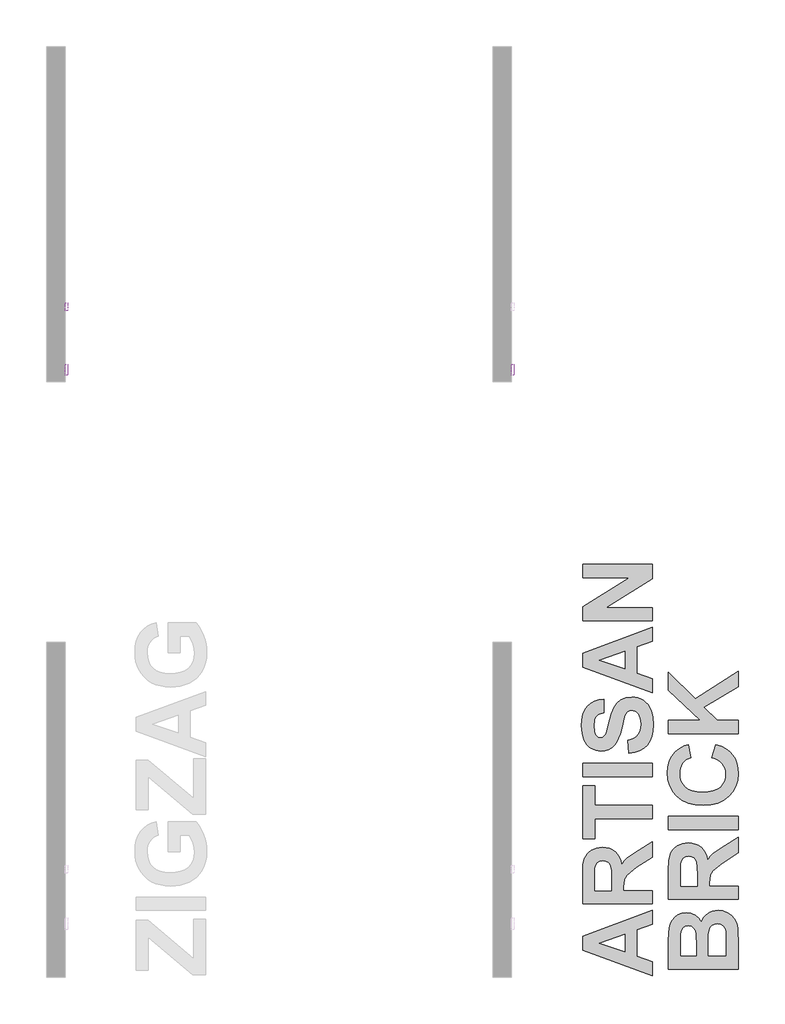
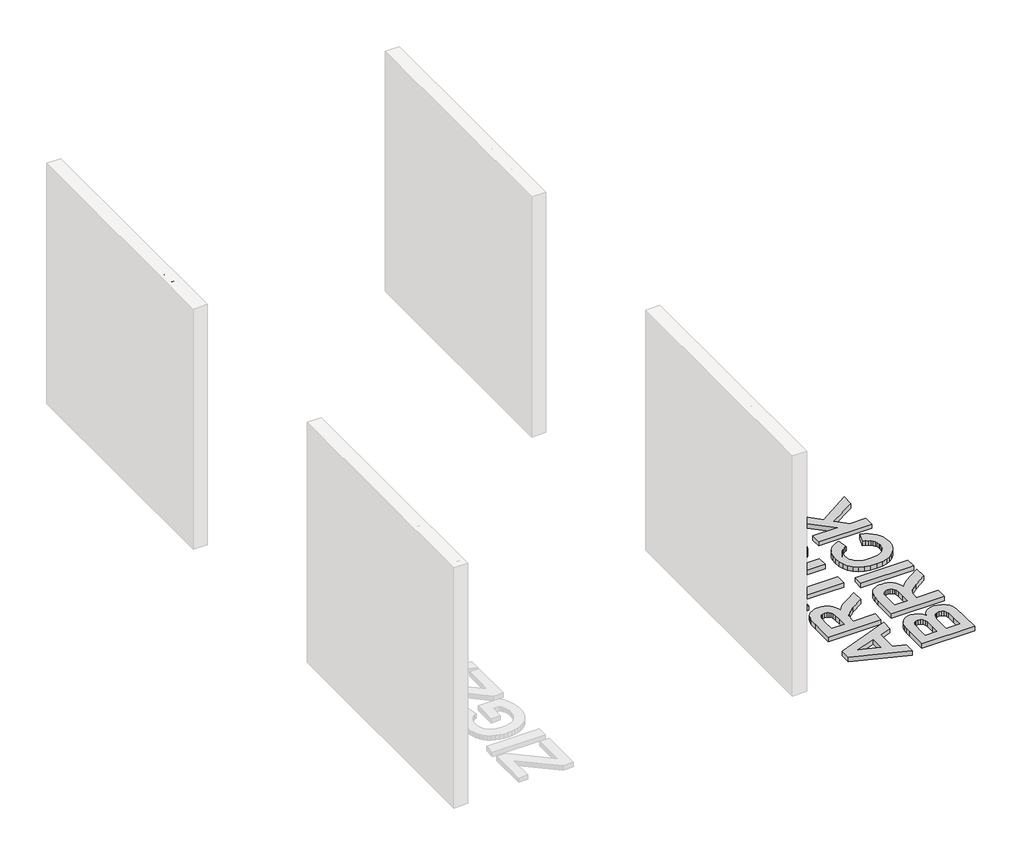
# One storey, part 3 of 9: 4 proxies.
"""IFC4 building model written with IfcOpenShell, lengths in millimetres."""

from ifc_helpers import new_model, si_unit, frame, origin, origin_with_axes, place, context, project, spatial, polyline, outline, extrude, element, save

model = new_model("IFC4")

# Units and contexts
model_context = context("Model", 3, world=origin())
ifc_project = project(units=[si_unit("LENGTHUNIT", "METRE", prefix="MILLI")], contexts=[model_context])

# Site, building, storey
site = spatial("IfcSite", under=ifc_project)
building = spatial("IfcBuilding", under=site)
storey = spatial("IfcBuildingStorey", under=building, Name="PORTOBELLO - SHOWROOM", Elevation=0.0)

# Proxies
placement = place(None, origin())
element("IfcBuildingElementProxy", 1, Name="10mm Arial", ObjectType="10mm Arial", at=placement, inside=storey, context=model_context, shape_type="SweptSolid", body=[
    extrude(outline(polyline([(-1097.7049398, 2548.8308244), (-1057.6058023, 2649.2871345), (-1046.912699, 2649.2871345), (-1006.8135615, 2548.8308244), (-1020.0818388, 2548.8308244), (-1031.5842825, 2580.2234213), (-1072.9587442, 2580.2234213), (-1084.4366625, 2548.8308244), (-1097.7049398, 2548.8308244)]), holes=[polyline([(-1068.3479566, 2592.7804601), (-1036.1705447, 2592.7804601), (-1045.2204418, 2617.4776047), (-1052.2592506, 2636.7300958), (-1058.5132446, 2619.6358457), (-1068.3479566, 2592.7804601)])]), frame((-18784.5594677, 0.0, 0.0), z_axis=(1.0, 0.0, 0.0), x_axis=(0.0, 1.0, 0.0)), (0.0, 0.0, 1.0), 20.0),
    extrude(outline(polyline([(-994.9677613, 2548.8308244), (-994.9677613, 2622.6034271), (-983.9803523, 2622.6034271), (-983.9803523, 2611.6895946), (-976.181254, 2621.7450358), (-968.3331048, 2624.173057), (-955.7270151, 2620.2980333), (-959.9208699, 2609.0408443), (-968.7500377, 2611.6160182), (-975.8501603, 2609.1389461), (-980.3751088, 2602.2718155), (-982.4107225, 2587.6055867), (-982.4107225, 2548.8308244), (-994.9677613, 2548.8308244)])), frame((-18784.5594677, 0.0, 0.0), z_axis=(1.0, 0.0, 0.0), x_axis=(0.0, 1.0, 0.0)), (0.0, 0.0, 1.0), 20.0),
    extrude(outline(polyline([(-902.3596003, 2548.8308244), (-902.3596003, 2560.6766246), (-910.6676021, 2550.6150521), (-922.1516517, 2547.2611945), (-937.7007974, 2552.1172369), (-948.6882063, 2565.667557), (-952.5877554, 2585.6435494), (-948.9947746, 2605.6318044), (-938.2280949, 2619.3905911), (-922.2007026, 2624.173057), (-910.6246825, 2620.7517544), (-902.3596003, 2611.8612729), (-902.3596003, 2649.2871345), (-889.8025616, 2649.2871345), (-889.8025616, 2548.8308244), (-902.3596003, 2548.8308244)]), holes=[polyline([(-940.0307167, 2585.6926003), (-938.614371, 2574.3342437), (-934.3653339, 2566.2561682), (-928.1910478, 2561.427717), (-920.9989548, 2559.8182333), (-913.8099274, 2561.3541406), (-907.7919911, 2565.9618626), (-903.717698, 2573.7272384), (-902.3596003, 2584.7361071), (-903.7422235, 2596.7719797), (-907.890093, 2605.1167696), (-914.0613135, 2609.9912061), (-921.5139896, 2611.6160182), (-928.779659, 2610.0555854), (-934.7332159, 2605.374287), (-938.7063415, 2597.3329998), (-940.0307167, 2585.6926003)])]), frame((-18784.5594677, 0.0, 0.0), z_axis=(1.0, 0.0, 0.0), x_axis=(0.0, 1.0, 0.0)), (0.0, 0.0, 1.0), 20.0),
    extrude(outline(polyline([(-819.3163713, 2570.8056422), (-807.0045872, 2569.2360124), (-811.4406309, 2559.9592547), (-818.5192936, 2553.0246791), (-828.0811598, 2548.7020657), (-839.966814, 2547.2611945), (-854.7004879, 2549.7474637), (-866.0373847, 2557.2062711), (-873.2662659, 2569.1532389), (-875.675893, 2585.1039891), (-873.2417404, 2601.5912339), (-865.9392828, 2613.9214121), (-854.7556702, 2621.6101458), (-840.6780525, 2624.173057), (-827.0388275, 2621.6162771), (-816.1403234, 2613.9459375), (-808.9942157, 2601.6402848), (-806.6121797, 2585.1775655), (-806.6857561, 2581.7930512), (-863.1188542, 2581.7930512), (-860.9452847, 2572.3936662), (-855.8961044, 2565.483616), (-848.6089752, 2561.234579), (-839.7215593, 2559.8182333), (-827.4097752, 2562.4424582), (-819.3163713, 2570.8056422)]), holes=[polyline([(-863.1188542, 2594.3500899), (-819.1692185, 2594.3500899), (-824.1969391, 2605.7299063), (-831.5177908, 2610.1444902), (-840.7271034, 2611.6160182), (-856.19041, 2606.9193914), (-861.0556493, 2601.4287526), (-863.1188542, 2594.3500899)])]), frame((-18784.5594677, 0.0, 0.0), z_axis=(1.0, 0.0, 0.0), x_axis=(0.0, 1.0, 0.0)), (0.0, 0.0, 1.0), 20.0),
    extrude(outline(polyline([(-798.7640305, 2570.8056422), (-786.2069917, 2572.3752721), (-780.3944562, 2563.0555949), (-767.077128, 2559.8182333), (-754.2748346, 2562.7858147), (-750.1055053, 2569.7510472), (-754.29936, 2575.3919044), (-767.2242808, 2578.9726225), (-786.1334153, 2585.1162518), (-794.3862348, 2592.2899507), (-797.1944007, 2602.4189683), (-794.9380578, 2611.7754338), (-788.7821657, 2618.9246072), (-780.7991264, 2622.6402153), (-769.9956585, 2624.173057), (-754.716293, 2621.7082476), (-745.0042083, 2615.0373208), (-740.6877262, 2603.767869), (-753.244765, 2602.1982392), (-757.9659172, 2609.1266834), (-769.0146398, 2611.6160182), (-781.0321183, 2609.237048), (-784.6373619, 2603.6942926), (-783.1413084, 2600.0399981), (-778.4569444, 2597.2686204), (-767.6412137, 2594.5953446), (-749.2103258, 2588.6847072), (-740.650938, 2581.9892549), (-737.5484665, 2571.0754224), (-741.1904983, 2559.0579438), (-751.6996606, 2550.3391406), (-767.2488063, 2547.2611945), (-779.9100783, 2548.7449853), (-789.1500477, 2553.1963574), (-795.3182025, 2560.56626), (-798.7640305, 2570.8056422)])), frame((-18784.5594677, 0.0, 0.0), z_axis=(1.0, 0.0, 0.0), x_axis=(0.0, 1.0, 0.0)), (0.0, 0.0, 1.0), 20.0),
    extrude(outline(polyline([(-18764.5594677, -710.8647591), (-18764.5594677, -723.4217979), (-18784.5594677, -723.4217979), (-18784.5594677, -710.8647591), (-18764.5594677, -710.8647591)])), frame((0.0, 0.0, 2548.8308244), z_axis=(0.0, 0.0, 1.0), x_axis=(1.0, 0.0, 0.0)), (0.0, 0.0, 1.0), 73.7726028),
    extrude(outline(polyline([(-18764.5594677, -710.8647591), (-18764.5594677, -723.4217979), (-18784.5594677, -723.4217979), (-18784.5594677, -710.8647591), (-18764.5594677, -710.8647591)])), frame((0.0, 0.0, 2636.7300958), z_axis=(0.0, 0.0, 1.0), x_axis=(1.0, 0.0, 0.0)), (0.0, 0.0, 1.0), 12.5570388),
    extrude(outline(polyline([(-644.9403056, 2558.2486035), (-657.1171996, 2549.7382666), (-670.5694179, 2547.2611945), (-681.0632518, 2548.7511166), (-688.8041021, 2553.2208829), (-693.577371, 2560.0083057), (-695.1684607, 2568.4511975), (-692.764965, 2578.3840113), (-686.4496574, 2585.5944984), (-677.6572777, 2589.7147768), (-666.7924961, 2591.6032377), (-645.013882, 2595.9197198), (-644.9403056, 2598.7156229), (-648.3983963, 2607.9862492), (-662.2798103, 2611.6160182), (-674.9840019, 2609.2002598), (-681.041792, 2600.6286093), (-693.5988308, 2602.1982392), (-688.16644, 2614.4609723), (-677.228082, 2621.646934), (-660.6611295, 2624.173057), (-645.4430777, 2621.9412396), (-636.8469017, 2616.3371705), (-632.9964035, 2607.8145709), (-632.3832668, 2596.827162), (-632.3832668, 2581.20444), (-631.7456047, 2559.3890376), (-629.2440071, 2548.8308244), (-641.8010459, 2548.8308244), (-644.9403056, 2558.2486035)]), holes=[polyline([(-644.9403056, 2583.362681), (-665.1983408, 2579.5121828), (-676.0018087, 2577.4765691), (-680.8946393, 2574.1656311), (-682.6114219, 2569.3341142), (-678.8712883, 2562.5405601), (-667.8961421, 2559.8182333), (-655.1919505, 2562.8226029), (-647.0004448, 2570.0944037), (-645.013882, 2579.8064884), (-644.9403056, 2583.362681)])]), frame((-18784.5594677, 0.0, 0.0), z_axis=(1.0, 0.0, 0.0), x_axis=(0.0, 1.0, 0.0)), (0.0, 0.0, 1.0), 20.0),
])
element("IfcBuildingElementProxy", 2, Name="10mm Arial", ObjectType="10mm Arial", at=placement, inside=storey, context=model_context, shape_type="SweptSolid", body=[
    extrude(outline(polyline([(-1097.7049398, 2548.8308244), (-1057.6058023, 2649.2871345), (-1046.912699, 2649.2871345), (-1006.8135615, 2548.8308244), (-1020.0818388, 2548.8308244), (-1031.5842825, 2580.2234213), (-1072.9587442, 2580.2234213), (-1084.4366625, 2548.8308244), (-1097.7049398, 2548.8308244)]), holes=[polyline([(-1068.3479566, 2592.7804601), (-1036.1705447, 2592.7804601), (-1045.2204418, 2617.4776047), (-1052.2592506, 2636.7300958), (-1058.5132446, 2619.6358457), (-1068.3479566, 2592.7804601)])]), frame((-22384.5594677, 0.0, 0.0), z_axis=(1.0, 0.0, 0.0), x_axis=(0.0, 1.0, 0.0)), (0.0, 0.0, 1.0), 20.0),
    extrude(outline(polyline([(-994.9677613, 2548.8308244), (-994.9677613, 2622.6034271), (-983.9803523, 2622.6034271), (-983.9803523, 2611.6895946), (-976.181254, 2621.7450358), (-968.3331048, 2624.173057), (-955.7270151, 2620.2980333), (-959.9208699, 2609.0408443), (-968.7500377, 2611.6160182), (-975.8501603, 2609.1389461), (-980.3751088, 2602.2718155), (-982.4107225, 2587.6055867), (-982.4107225, 2548.8308244), (-994.9677613, 2548.8308244)])), frame((-22384.5594677, 0.0, 0.0), z_axis=(1.0, 0.0, 0.0), x_axis=(0.0, 1.0, 0.0)), (0.0, 0.0, 1.0), 20.0),
    extrude(outline(polyline([(-902.3596003, 2548.8308244), (-902.3596003, 2560.6766246), (-910.6676021, 2550.6150521), (-922.1516517, 2547.2611945), (-937.7007974, 2552.1172369), (-948.6882063, 2565.667557), (-952.5877554, 2585.6435494), (-948.9947746, 2605.6318044), (-938.2280949, 2619.3905911), (-922.2007026, 2624.173057), (-910.6246825, 2620.7517544), (-902.3596003, 2611.8612729), (-902.3596003, 2649.2871345), (-889.8025616, 2649.2871345), (-889.8025616, 2548.8308244), (-902.3596003, 2548.8308244)]), holes=[polyline([(-940.0307167, 2585.6926003), (-938.614371, 2574.3342437), (-934.3653339, 2566.2561682), (-928.1910478, 2561.427717), (-920.9989548, 2559.8182333), (-913.8099274, 2561.3541406), (-907.7919911, 2565.9618626), (-903.717698, 2573.7272384), (-902.3596003, 2584.7361071), (-903.7422235, 2596.7719797), (-907.890093, 2605.1167696), (-914.0613135, 2609.9912061), (-921.5139896, 2611.6160182), (-928.779659, 2610.0555854), (-934.7332159, 2605.374287), (-938.7063415, 2597.3329998), (-940.0307167, 2585.6926003)])]), frame((-22384.5594677, 0.0, 0.0), z_axis=(1.0, 0.0, 0.0), x_axis=(0.0, 1.0, 0.0)), (0.0, 0.0, 1.0), 20.0),
    extrude(outline(polyline([(-819.3163713, 2570.8056422), (-807.0045872, 2569.2360124), (-811.4406309, 2559.9592547), (-818.5192936, 2553.0246791), (-828.0811598, 2548.7020657), (-839.966814, 2547.2611945), (-854.7004879, 2549.7474637), (-866.0373847, 2557.2062711), (-873.2662659, 2569.1532389), (-875.675893, 2585.1039891), (-873.2417404, 2601.5912339), (-865.9392828, 2613.9214121), (-854.7556702, 2621.6101458), (-840.6780525, 2624.173057), (-827.0388275, 2621.6162771), (-816.1403234, 2613.9459375), (-808.9942157, 2601.6402848), (-806.6121797, 2585.1775655), (-806.6857561, 2581.7930512), (-863.1188542, 2581.7930512), (-860.9452847, 2572.3936662), (-855.8961044, 2565.483616), (-848.6089752, 2561.234579), (-839.7215593, 2559.8182333), (-827.4097752, 2562.4424582), (-819.3163713, 2570.8056422)]), holes=[polyline([(-863.1188542, 2594.3500899), (-819.1692185, 2594.3500899), (-824.1969391, 2605.7299063), (-831.5177908, 2610.1444902), (-840.7271034, 2611.6160182), (-856.19041, 2606.9193914), (-861.0556493, 2601.4287526), (-863.1188542, 2594.3500899)])]), frame((-22384.5594677, 0.0, 0.0), z_axis=(1.0, 0.0, 0.0), x_axis=(0.0, 1.0, 0.0)), (0.0, 0.0, 1.0), 20.0),
    extrude(outline(polyline([(-798.7640305, 2570.8056422), (-786.2069917, 2572.3752721), (-780.3944562, 2563.0555949), (-767.077128, 2559.8182333), (-754.2748346, 2562.7858147), (-750.1055053, 2569.7510472), (-754.29936, 2575.3919044), (-767.2242808, 2578.9726225), (-786.1334153, 2585.1162518), (-794.3862348, 2592.2899507), (-797.1944007, 2602.4189683), (-794.9380578, 2611.7754338), (-788.7821657, 2618.9246072), (-780.7991264, 2622.6402153), (-769.9956585, 2624.173057), (-754.716293, 2621.7082476), (-745.0042083, 2615.0373208), (-740.6877262, 2603.767869), (-753.244765, 2602.1982392), (-757.9659172, 2609.1266834), (-769.0146398, 2611.6160182), (-781.0321183, 2609.237048), (-784.6373619, 2603.6942926), (-783.1413084, 2600.0399981), (-778.4569444, 2597.2686204), (-767.6412137, 2594.5953446), (-749.2103258, 2588.6847072), (-740.650938, 2581.9892549), (-737.5484665, 2571.0754224), (-741.1904983, 2559.0579438), (-751.6996606, 2550.3391406), (-767.2488063, 2547.2611945), (-779.9100783, 2548.7449853), (-789.1500477, 2553.1963574), (-795.3182025, 2560.56626), (-798.7640305, 2570.8056422)])), frame((-22384.5594677, 0.0, 0.0), z_axis=(1.0, 0.0, 0.0), x_axis=(0.0, 1.0, 0.0)), (0.0, 0.0, 1.0), 20.0),
    extrude(outline(polyline([(-22364.5594677, -710.8647591), (-22364.5594677, -723.4217979), (-22384.5594677, -723.4217979), (-22384.5594677, -710.8647591), (-22364.5594677, -710.8647591)])), frame((0.0, 0.0, 2548.8308244), z_axis=(0.0, 0.0, 1.0), x_axis=(1.0, 0.0, 0.0)), (0.0, 0.0, 1.0), 73.7726028),
    extrude(outline(polyline([(-22364.5594677, -710.8647591), (-22364.5594677, -723.4217979), (-22384.5594677, -723.4217979), (-22384.5594677, -710.8647591), (-22364.5594677, -710.8647591)])), frame((0.0, 0.0, 2636.7300958), z_axis=(0.0, 0.0, 1.0), x_axis=(1.0, 0.0, 0.0)), (0.0, 0.0, 1.0), 12.5570388),
    extrude(outline(polyline([(-644.9403056, 2558.2486035), (-657.1171996, 2549.7382666), (-670.5694179, 2547.2611945), (-681.0632518, 2548.7511166), (-688.8041021, 2553.2208829), (-693.577371, 2560.0083057), (-695.1684607, 2568.4511975), (-692.764965, 2578.3840113), (-686.4496574, 2585.5944984), (-677.6572777, 2589.7147768), (-666.7924961, 2591.6032377), (-645.013882, 2595.9197198), (-644.9403056, 2598.7156229), (-648.3983963, 2607.9862492), (-662.2798103, 2611.6160182), (-674.9840019, 2609.2002598), (-681.041792, 2600.6286093), (-693.5988308, 2602.1982392), (-688.16644, 2614.4609723), (-677.228082, 2621.646934), (-660.6611295, 2624.173057), (-645.4430776, 2621.9412396), (-636.8469017, 2616.3371705), (-632.9964035, 2607.8145709), (-632.3832668, 2596.827162), (-632.3832668, 2581.20444), (-631.7456047, 2559.3890376), (-629.2440071, 2548.8308244), (-641.8010459, 2548.8308244), (-644.9403056, 2558.2486035)]), holes=[polyline([(-644.9403056, 2583.362681), (-665.1983408, 2579.5121828), (-676.0018087, 2577.4765691), (-680.8946393, 2574.1656311), (-682.6114219, 2569.3341142), (-678.8712883, 2562.5405601), (-667.8961421, 2559.8182333), (-655.1919505, 2562.8226029), (-647.0004448, 2570.0944037), (-645.013882, 2579.8064884), (-644.9403056, 2583.362681)])]), frame((-22384.5594677, 0.0, 0.0), z_axis=(1.0, 0.0, 0.0), x_axis=(0.0, 1.0, 0.0)), (0.0, 0.0, 1.0), 20.0),
])
element("IfcBuildingElementProxy", 3, Name="10mm Arial Narrow", ObjectType="10mm Arial Narrow", at=placement, inside=storey, context=model_context, shape_type="SweptSolid", body=[
    extrude(outline(polyline([(-576.4830429, 2548.8308244), (-576.4830429, 2649.5494281), (-545.1861582, 2649.5494281), (-528.8904567, 2647.6711074), (-517.4174705, 2638.1906642), (-513.1277921, 2621.1715554), (-514.9141005, 2609.0957299), (-520.2730257, 2599.4693361), (-530.0168145, 2593.1680777), (-544.9577138, 2591.0676582), (-566.7360812, 2591.0676582), (-566.7360812, 2548.8308244), (-576.4830429, 2548.8308244)]), holes=[polyline([(-566.7360812, 2602.4391135), (-543.7647263, 2602.4391135), (-527.9005309, 2606.9699277), (-522.8747538, 2620.6385184), (-525.3495682, 2630.8042949), (-531.3271971, 2636.6042447), (-543.9931707, 2638.1779729), (-566.7360812, 2638.1779729), (-566.7360812, 2602.4391135)])]), frame((-22384.5594677, 0.0, 0.0), z_axis=(1.0, 0.0, 0.0), x_axis=(0.0, 1.0, 0.0)), (0.0, 0.0, 1.0), 20.0),
    extrude(outline(polyline([(-505.0053241, 2585.3819306), (-503.0508552, 2601.9727061), (-497.1874486, 2613.9247909), (-488.3288819, 2621.1493455), (-477.3889327, 2623.5575304), (-466.5758971, 2621.1493455), (-457.6919477, 2613.9247909), (-451.752393, 2602.1630765), (-449.7725414, 2586.143412), (-451.7174917, 2568.9815254), (-457.5523428, 2556.8390702), (-466.401391, 2549.6145156), (-477.3889327, 2547.2063308), (-488.2495609, 2549.6208613), (-497.1239918, 2556.8644529), (-503.034991, 2568.8228834), (-505.0053241, 2585.3819306)]), holes=[polyline([(-495.2583624, 2585.4073133), (-493.9543256, 2572.8555619), (-490.042215, 2563.9843038), (-484.2010182, 2558.7110453), (-477.1097229, 2556.9532924), (-470.3896497, 2558.7269095), (-464.6975764, 2564.0477606), (-460.8140214, 2572.9348829), (-459.519503, 2585.4073133), (-460.8235399, 2597.9209906), (-464.7356505, 2606.7795573), (-470.5768472, 2612.0528159), (-477.6681426, 2613.8105687), (-484.4358083, 2612.0432974), (-490.1183631, 2606.7414833), (-493.9733626, 2597.873398), (-495.2583624, 2585.4073133)])]), frame((-22384.5594677, 0.0, 0.0), z_axis=(1.0, 0.0, 0.0), x_axis=(0.0, 1.0, 0.0)), (0.0, 0.0, 1.0), 20.0),
    extrude(outline(polyline([(-378.2948226, 2556.9532924), (-376.670329, 2547.2063308), (-384.0313156, 2547.2063308), (-392.30608, 2549.3257873), (-396.6211411, 2555.1257371), (-397.7887459, 2569.7715623), (-397.7887459, 2612.1860751), (-405.9112139, 2612.1860751), (-405.9112139, 2615.4350623), (-407.5357075, 2610.5615815), (-415.0997559, 2612.1860751), (-421.1789156, 2609.8635569), (-425.0497793, 2603.3782738), (-427.0296308, 2587.9709673), (-427.0296308, 2548.8308244), (-436.7765925, 2548.8308244), (-436.7765925, 2621.9330368), (-427.0296308, 2621.9330368), (-427.0296308, 2612.2368406), (-420.7854835, 2621.3238517), (-414.3890399, 2623.5575304), (-405.9112139, 2621.9330368), (-397.7887459, 2621.9330368), (-397.7887459, 2638.1779729), (-388.0417842, 2646.3004409), (-388.0417842, 2621.9330368), (-378.2948226, 2621.9330368), (-378.2948226, 2612.1860751), (-388.0417842, 2612.1860751), (-388.0417842, 2567.5378836), (-387.178772, 2559.5423291), (-382.5591183, 2556.9532924), (-378.2948226, 2556.9532924)])), frame((-22384.5594677, 0.0, 0.0), z_axis=(1.0, 0.0, 0.0), x_axis=(0.0, 1.0, 0.0)), (0.0, 0.0, 1.0), 20.0),
    extrude(outline(polyline([(-371.7968481, 2585.3819306), (-369.8423793, 2601.9727061), (-363.9789726, 2613.9247909), (-355.1204059, 2621.1493455), (-344.1804568, 2623.5575304), (-333.3674212, 2621.1493455), (-324.4834718, 2613.9247909), (-318.543917, 2602.1630765), (-316.5640654, 2586.143412), (-318.5090158, 2568.9815254), (-324.3438669, 2556.8390702), (-333.1929151, 2549.6145156), (-344.1804568, 2547.2063308), (-355.041085, 2549.6208613), (-363.9155159, 2556.8644529), (-369.8265151, 2568.8228834), (-371.7968481, 2585.3819306)]), holes=[polyline([(-362.0498865, 2585.4073133), (-360.7458496, 2572.8555619), (-356.833739, 2563.9843038), (-350.9925423, 2558.7110453), (-343.9012469, 2556.9532924), (-337.1811738, 2558.7269095), (-331.4891005, 2564.0477606), (-327.6055454, 2572.9348829), (-326.3110271, 2585.4073133), (-327.615064, 2597.9209906), (-331.5271745, 2606.7795573), (-337.3683713, 2612.0528159), (-344.4596666, 2613.8105687), (-351.2273324, 2612.0432974), (-356.9098872, 2606.7414833), (-360.7648867, 2597.873398), (-362.0498865, 2585.4073133)])]), frame((-22384.5594677, 0.0, 0.0), z_axis=(1.0, 0.0, 0.0), x_axis=(0.0, 1.0, 0.0)), (0.0, 0.0, 1.0), 20.0),
    extrude(outline(polyline([(-293.8211549, 2548.8308244), (-303.5681166, 2548.8308244), (-303.5681166, 2649.5494281), (-293.8211549, 2649.5494281), (-293.8211549, 2614.140544), (-286.4220942, 2621.2223208), (-277.2208608, 2623.5575304), (-264.3391342, 2619.3566915), (-255.0617527, 2606.6272611), (-251.5843211, 2585.9403503), (-253.5165801, 2569.4860068), (-259.3133571, 2557.2832677), (-267.6864794, 2549.725565), (-277.3477744, 2547.2063308), (-286.6886127, 2549.8207502), (-293.8211549, 2557.5878602), (-293.8211549, 2548.8308244)]), holes=[polyline([(-293.8211549, 2585.9403503), (-291.7397725, 2568.692797), (-285.8509831, 2559.9611439), (-277.3985398, 2556.9532924), (-271.4558122, 2558.7427737), (-266.2174549, 2564.1112174), (-261.3312827, 2585.5342269), (-266.0397759, 2606.9699277), (-271.2844789, 2612.1004085), (-277.6016015, 2613.8105687), (-283.5792304, 2612.0210875), (-288.8715259, 2606.6526438), (-293.8211549, 2585.9403503)])]), frame((-22384.5594677, 0.0, 0.0), z_axis=(1.0, 0.0, 0.0), x_axis=(0.0, 1.0, 0.0)), (0.0, 0.0, 1.0), 20.0),
    extrude(outline(polyline([(-199.6005256, 2571.5737349), (-189.8535639, 2569.9492413), (-193.5530943, 2560.0626747), (-199.3720812, 2552.9428238), (-207.0757345, 2548.640454), (-216.4292641, 2547.2063308), (-228.0228181, 2549.6208613), (-237.1669403, 2556.8644529), (-243.1064951, 2568.6705872), (-245.0863466, 2584.7727455), (-243.0969765, 2601.4396692), (-237.1288662, 2613.6201984), (-228.1148304, 2621.0731974), (-216.9876838, 2623.5575304), (-206.3047346, 2621.158864), (-197.5572172, 2613.962865), (-191.7223662, 2602.2233604), (-189.7774158, 2586.1941774), (-189.8535639, 2582.9451902), (-235.339385, 2582.9451902), (-229.3363734, 2563.5020323), (-223.4063372, 2558.5904774), (-216.3023505, 2556.9532924), (-206.1238827, 2560.608403), (-199.6005256, 2571.5737349)]), holes=[polyline([(-234.6794345, 2592.6921518), (-199.6005256, 2592.6921518), (-203.8648213, 2606.9572363), (-209.6901539, 2612.0972356), (-216.9115356, 2613.8105687), (-229.1206204, 2608.0994584), (-234.6794345, 2592.6921518)])]), frame((-22384.5594677, 0.0, 0.0), z_axis=(1.0, 0.0, 0.0), x_axis=(0.0, 1.0, 0.0)), (0.0, 0.0, 1.0), 20.0),
    extrude(outline(polyline([(-22364.5594677, -167.1106534), (-22364.5594677, -176.8576151), (-22384.5594677, -176.8576151), (-22384.5594677, -167.1106534), (-22364.5594677, -167.1106534)])), frame((0.0, 0.0, 2548.8308244), z_axis=(0.0, 0.0, 1.0), x_axis=(1.0, 0.0, 0.0)), (0.0, 0.0, 1.0), 100.7186038),
    extrude(outline(polyline([(-22364.5594677, -141.1187557), (-22364.5594677, -150.8657173), (-22384.5594677, -150.8657173), (-22384.5594677, -141.1187557), (-22364.5594677, -141.1187557)])), frame((0.0, 0.0, 2548.8308244), z_axis=(0.0, 0.0, 1.0), x_axis=(1.0, 0.0, 0.0)), (0.0, 0.0, 1.0), 100.7186038),
    extrude(outline(polyline([(-129.7473004, 2585.3819306), (-127.7928315, 2601.9727061), (-121.9294249, 2613.9247909), (-113.0708582, 2621.1493455), (-102.1309091, 2623.5575304), (-91.3178735, 2621.1493455), (-82.433924, 2613.9247909), (-76.4943693, 2602.1630765), (-74.5145177, 2586.143412), (-76.4594681, 2568.9815254), (-82.2943191, 2556.8390702), (-91.1433673, 2549.6145156), (-102.1309091, 2547.2063308), (-112.9915372, 2549.6208613), (-121.8659681, 2556.8644529), (-127.7769673, 2568.8228834), (-129.7473004, 2585.3819306)]), holes=[polyline([(-120.0003388, 2585.4073133), (-118.6963019, 2572.8555619), (-114.7841913, 2563.9843038), (-108.9429946, 2558.7110453), (-101.8516992, 2556.9532924), (-95.131626, 2558.7269095), (-89.4395527, 2564.0477606), (-85.5559977, 2572.9348829), (-84.2614794, 2585.4073133), (-85.5655162, 2597.9209906), (-89.4776268, 2606.7795573), (-95.3188236, 2612.0528159), (-102.4101189, 2613.8105687), (-109.1777847, 2612.0432974), (-114.8603394, 2606.7414833), (-118.7153389, 2597.873398), (-120.0003388, 2585.4073133)])]), frame((-22384.5594677, 0.0, 0.0), z_axis=(1.0, 0.0, 0.0), x_axis=(0.0, 1.0, 0.0)), (0.0, 0.0, 1.0), 20.0),
])
element("IfcBuildingElementProxy", 4, Name="550mm Arial", ObjectType="550mm Arial", at=placement, inside=storey, context=model_context, shape_type="SweptSolid", body=[
    extrude(outline(polyline([(-17651.2604313, -5407.2330615), (-17651.2604313, -5519.5450989), (-17775.9588024, -5563.5235423), (-17775.9588024, -5775.4829387), (-17651.2604313, -5818.9046929), (-17651.2604313, -5932.7476255), (-18212.4031013, -5727.8860158), (-18212.4031013, -5614.0430833), (-17651.2604313, -5407.2330615)]), holes=[polyline([(-17873.936094, -5597.7599254), (-18078.7977036, -5669.9903435), (-17873.936094, -5741.2465556), (-17873.936094, -5597.7599254)])]), origin_with_axes(), (0.0, 0.0, 1.0), 50.0),
    extrude(outline(polyline([(-17651.2604313, -5353.7909025), (-18212.4031013, -5353.7909025), (-18212.4031013, -5117.7547), (-18208.6106564, -5040.8620103), (-18197.2333217, -4988.3244711), (-18188.1697264, -4969.1534883), (-18176.1487199, -4952.0005036), (-18161.1703023, -4936.8655172), (-18143.2344735, -4923.7485289), (-18123.1153795, -4913.1540384), (-18101.587166, -4905.5865452), (-18078.6498331, -4901.0460493), (-18054.3033807, -4899.5325506), (-18023.9551234, -4901.720165), (-17996.3729154, -4908.2830083), (-17971.5567566, -4919.2210804), (-17949.506647, -4934.5343813), (-17930.753181, -4954.2055146), (-17915.826953, -4978.2170836), (-17904.7279629, -5006.5690884), (-17897.4562108, -5039.2615289), (-17875.1190584, -5008.2609015), (-17850.6943217, -4983.1750964), (-17815.3097671, -4957.2194645), (-17760.0931614, -4923.6093566), (-17651.2604313, -4854.9974181), (-17651.2604313, -4979.8349615), (-17779.4381096, -5061.1115783), (-17855.4957656, -5124.9220729), (-17868.6997366, -5142.6317467), (-17876.9978843, -5161.3852127), (-17881.3818114, -5186.2796559), (-17882.8431205, -5222.4122615), (-17882.8431205, -5246.9065844), (-17651.2604313, -5246.9065844), (-17651.2604313, -5353.7909025)]), holes=[polyline([(-17980.8204121, -5246.9065844), (-17980.8204121, -5158.8105254), (-17982.4382899, -5089.2765704), (-17987.2919235, -5051.8566211), (-17996.0945708, -5032.8248106), (-18009.5594898, -5018.4552717), (-18027.3213532, -5009.4264695), (-18049.0148338, -5006.4168687), (-18073.0394502, -5010.3832789), (-18091.949485, -5022.2825097), (-18105.2926282, -5041.4186994), (-18112.6165699, -5067.0959868), (-18114.4258097, -5153.9394952), (-18114.4258097, -5246.9065844), (-17980.8204121, -5246.9065844)])]), origin_with_axes(), (0.0, 0.0, 1.0), 50.0),
    extrude(outline(polyline([(-17651.2604313, -4667.9498614), (-18114.4258097, -4667.9498614), (-18114.4258097, -4828.2763385), (-18212.4031013, -4828.2763385), (-18212.4031013, -4400.7390662), (-18114.4258097, -4400.7390662), (-18114.4258097, -4561.0655433), (-17651.2604313, -4561.0655433), (-17651.2604313, -4667.9498614)])), origin_with_axes(), (0.0, 0.0, 1.0), 50.0),
    extrude(outline(polyline([(-17651.2604313, -4329.4828541), (-18212.4031013, -4329.4828541), (-18212.4031013, -4222.598536), (-17651.2604313, -4222.598536), (-17651.2604313, -4329.4828541)])), origin_with_axes(), (0.0, 0.0, 1.0), 50.0),
    extrude(outline(polyline([(-17838.3079879, -4142.4352975), (-17847.2150144, -4035.5509794), (-17821.4855375, -4029.0794679), (-17799.4093331, -4019.963683), (-17780.9864013, -4008.2036246), (-17766.2167421, -3993.7992926), (-17754.8915971, -3976.7071959), (-17746.8022078, -3956.8838429), (-17741.9485742, -3934.3292338), (-17740.3306964, -3909.0433685), (-17741.7615614, -3882.4701595), (-17746.0541567, -3859.3936543), (-17753.2084822, -3839.8138529), (-17763.2245379, -3823.7307552), (-17775.1542126, -3811.1878527), (-17788.049395, -3802.2286366), (-17801.9100852, -3796.8531069), (-17816.7362831, -3795.0612637), (-17834.9156634, -3798.0360714), (-17850.2072187, -3806.9604944), (-17863.132845, -3823.3306349), (-17874.2144385, -3848.642595), (-17898.0129, -3941.3313396), (-17909.6250879, -3984.3529735), (-17922.6116021, -4020.450786), (-17936.9724427, -4049.6247771), (-17952.7076096, -4071.8749469), (-17977.0714585, -4094.9514521), (-18003.9578051, -4111.4346701), (-18033.3666495, -4121.3246009), (-18065.2979916, -4124.6212445), (-18106.6321615, -4118.5672499), (-18145.1828856, -4100.4052661), (-18162.6577061, -4086.9577437), (-18177.9231666, -4070.8311547), (-18190.979267, -4052.0254991), (-18201.8260073, -4030.540777), (-18216.4390976, -3980.1952014), (-18221.3101278, -3920.4554962), (-18218.2744322, -3871.0362862), (-18209.1673455, -3828.1320789), (-18193.9888677, -3791.7428744), (-18172.7389988, -3761.8686727), (-18146.4267379, -3738.4137928), (-18116.0610841, -3721.2825539), (-18081.6420373, -3710.4749558), (-18043.1695976, -3705.9909986), (-18043.1695976, -3812.8753167), (-18079.8936854, -3824.6875647), (-18093.7543756, -3833.8163971), (-18104.6141633, -3845.0937016), (-18112.8035827, -3858.9891849), (-18118.653168, -3875.9725533), (-18123.3328362, -3919.2029456), (-18118.3574268, -3964.7122842), (-18112.1381652, -3983.2917848), (-18103.4311988, -3999.0878396), (-18088.4701777, -4013.0746547), (-18069.1948157, -4017.7369264), (-18050.9980389, -4013.4921715), (-18035.654294, -4000.7579071), (-18026.7429184, -3986.123071), (-18017.6836722, -3963.7902678), (-17999.1215681, -3896.0307595), (-17979.811413, -3823.7133587), (-17959.596638, -3773.072042), (-17935.1197116, -3737.5831082), (-17903.0231024, -3710.7228564), (-17884.0173867, -3700.8590204), (-17862.90669, -3693.8134233), (-17814.3703542, -3688.1769456), (-17790.8154443, -3689.8426639), (-17768.0259819, -3694.8398189), (-17746.0019671, -3703.1684106), (-17724.7434, -3714.828439), (-17705.2070899, -3729.5372103), (-17688.3498463, -3747.0120308), (-17674.1716694, -3767.2529006), (-17662.672559, -3790.2598197), (-17653.782929, -3816.1502146), (-17647.4331933, -3845.041512), (-17642.3534048, -3911.8268143), (-17645.4804321, -3961.7722696), (-17654.8615143, -4005.5593511), (-17670.4966511, -4043.1880587), (-17692.3858427, -4074.6583926), (-17720.268141, -4100.1878094), (-17753.882598, -4119.9937658), (-17793.2292136, -4134.0762618), (-17838.3079879, -4142.4352975)])), origin_with_axes(), (0.0, 0.0, 1.0), 50.0),
    extrude(outline(polyline([(-17651.2604313, -3127.0342756), (-17651.2604313, -3239.346313), (-17775.9588024, -3283.3247564), (-17775.9588024, -3495.2841528), (-17651.2604313, -3538.705907), (-17651.2604313, -3652.5488396), (-18212.4031013, -3447.6872299), (-18212.4031013, -3333.8442973), (-17651.2604313, -3127.0342756)]), holes=[polyline([(-17873.936094, -3317.5611395), (-18078.7977036, -3389.7915576), (-17873.936094, -3461.0477696), (-17873.936094, -3317.5611395)])]), origin_with_axes(), (0.0, 0.0, 1.0), 50.0),
    extrude(outline(polyline([(-17651.2604313, -3073.5921166), (-18212.4031013, -3073.5921166), (-18212.4031013, -2961.5584238), (-17834.6895084, -2726.2180828), (-18212.4031013, -2726.2180828), (-18212.4031013, -2619.3337647), (-17651.2604313, -2619.3337647), (-17651.2604313, -2734.8467647), (-18023.4071325, -2966.7077985), (-17651.2604313, -2966.7077985), (-17651.2604313, -3073.5921166)])), origin_with_axes(), (0.0, 0.0, 1.0), 50.0),
    extrude(outline(polyline([(-17519.8906771, -5879.3054664), (-17519.8906771, -5648.9753278), (-17518.4989542, -5589.3226054), (-17514.3237856, -5547.031626), (-17505.7125002, -5515.1959649), (-17491.0124271, -5486.9091971), (-17470.3453422, -5462.6062361), (-17443.8330211, -5442.7219953), (-17412.6062387, -5429.4658347), (-17377.7957699, -5425.0471146), (-17339.8713211, -5430.318265), (-17305.1478349, -5446.1317164), (-17276.1652057, -5470.9913665), (-17255.4633277, -5503.4011134), (-17246.71287, -5481.5684605), (-17235.3529319, -5462.4148742), (-17221.3835134, -5445.9403545), (-17204.8046144, -5432.1449013), (-17186.1294329, -5421.2459714), (-17165.8711665, -5413.4610215), (-17144.0298154, -5408.7900515), (-17120.6053795, -5407.2330615), (-17083.0114649, -5411.7039713), (-17046.4961355, -5425.1167007), (-17014.1385782, -5446.2708887), (-16989.0179801, -5473.9661742), (-16971.6388404, -5508.5330915), (-16962.505659, -5550.3021748), (-16958.7480072, -5687.5260519), (-16958.7480072, -5879.3054664), (-17519.8906771, -5879.3054664)]), holes=[polyline([(-17421.9133855, -5772.4211484), (-17297.2150144, -5772.4211484), (-17297.2150144, -5690.8661869), (-17299.0242542, -5600.4041989), (-17305.5305587, -5571.9260692), (-17318.3692024, -5550.2325887), (-17336.9139099, -5536.5067217), (-17360.538406, -5531.9314326), (-17383.1365065, -5535.8804464), (-17401.1071283, -5547.7274875), (-17413.6848239, -5567.3333837), (-17420.1041458, -5594.5589628), (-17421.9133855, -5700.8865917), (-17421.9133855, -5772.4211484)]), polyline([(-17199.2377229, -5772.4211484), (-17056.7252987, -5772.4211484), (-17056.7252987, -5659.4132495), (-17060.0654337, -5575.6315314), (-17067.5285477, -5550.893657), (-17081.2892078, -5531.2355712), (-17101.0690694, -5518.3969275), (-17126.5897879, -5514.1173796), (-17148.7181819, -5517.4227215), (-17167.2280963, -5527.3387471), (-17181.6672213, -5543.4827326), (-17191.583247, -5565.4719543), (-17197.3241039, -5604.9968845), (-17199.2377229, -5673.7479953), (-17199.2377229, -5772.4211484)])]), origin_with_axes(), (0.0, 0.0, 1.0), 50.0),
    extrude(outline(polyline([(-16958.7480072, -5318.1627965), (-17519.8906771, -5318.1627965), (-17519.8906771, -5082.126594), (-17516.0982323, -5005.2339042), (-17504.7208976, -4952.6963651), (-17495.6573023, -4933.5253822), (-17483.6362958, -4916.3723976), (-17468.6578782, -4901.2374112), (-17450.7220494, -4888.1204229), (-17430.6029554, -4877.5259324), (-17409.0747419, -4869.9584392), (-17386.137409, -4865.4179432), (-17361.7909566, -4863.9044446), (-17331.4426993, -4866.092059), (-17303.8604912, -4872.6549023), (-17279.0443324, -4883.5929744), (-17256.9942229, -4898.9062753), (-17238.2407569, -4918.5774086), (-17223.3145289, -4942.5889776), (-17212.2155388, -4970.9409824), (-17204.9437867, -5003.6334229), (-17182.6066343, -4972.6327955), (-17158.1818975, -4947.5469904), (-17122.797343, -4921.5913584), (-17067.5807373, -4887.9812506), (-16958.7480072, -4819.369312), (-16958.7480072, -4944.2068554), (-17086.9256855, -5025.4834723), (-17162.9833415, -5089.2939669), (-17176.1873125, -5107.0036407), (-17184.4854602, -5125.7571067), (-17188.8693873, -5150.6515499), (-17190.3306964, -5186.7841555), (-17190.3306964, -5211.2784784), (-16958.7480072, -5211.2784784), (-16958.7480072, -5318.1627965)]), holes=[polyline([(-17288.3079879, -5211.2784784), (-17288.3079879, -5123.1824193), (-17289.9258658, -5053.6484643), (-17294.7794994, -5016.2285151), (-17303.5821467, -4997.1967045), (-17317.0470656, -4982.8271657), (-17334.8089291, -4973.7983634), (-17356.5024096, -4970.7887627), (-17380.5270261, -4974.7551729), (-17399.4370608, -4986.6544036), (-17412.7802041, -5005.7905934), (-17420.1041458, -5031.4678808), (-17421.9133855, -5118.3113892), (-17421.9133855, -5211.2784784), (-17288.3079879, -5211.2784784)])]), origin_with_axes(), (0.0, 0.0, 1.0), 50.0),
    extrude(outline(polyline([(-16958.7480072, -4757.0201265), (-17519.8906771, -4757.0201265), (-17519.8906771, -4650.1358084), (-16958.7480072, -4650.1358084), (-16958.7480072, -4757.0201265)])), origin_with_axes(), (0.0, 0.0, 1.0), 50.0),
    extrude(outline(polyline([(-17172.5166433, -4178.0634035), (-17136.8885373, -4071.1790854), (-17094.6280019, -4085.9400463), (-17058.1692112, -4104.8935725), (-17027.5121654, -4128.0396638), (-17002.6568644, -4155.3783204), (-16983.4467393, -4186.7964646), (-16969.7252215, -4222.1810192), (-16961.4923107, -4261.5319839), (-16958.7480072, -4304.8493589), (-16963.4363736, -4358.3698024), (-16977.5014731, -4406.89744), (-17000.9433056, -4450.4322717), (-17033.761871, -4488.9742975), (-17074.7133171, -4520.5142176), (-17122.5537915, -4543.0427319), (-17177.2832942, -4556.5598405), (-17238.9018253, -4561.0655433), (-17303.8778878, -4556.5206983), (-17361.1646813, -4542.886163), (-17410.7622059, -4520.1619377), (-17452.6704615, -4488.3480222), (-17485.9761299, -4449.1231823), (-17509.7658931, -4404.1661838), (-17524.039751, -4353.4770266), (-17528.7977036, -4297.0557107), (-17524.8747847, -4247.7191342), (-17513.106028, -4203.2535878), (-17493.4914335, -4163.6590716), (-17466.0310012, -4128.9355854), (-17445.4943903, -4110.8692826), (-17420.9043865, -4095.2210984), (-17392.2609897, -4081.9910326), (-17359.5642, -4071.1790854), (-17341.750147, -4178.0634035), (-17361.3255993, -4184.8002121), (-17378.7177863, -4194.433544), (-17393.926708, -4206.9633992), (-17406.9523645, -4222.3897776), (-17417.3946353, -4240.1733867), (-17424.8534002, -4259.7749338), (-17429.3286591, -4281.1944189), (-17430.8204121, -4304.4318421), (-17428.1109015, -4336.1935679), (-17419.98237, -4364.815219), (-17406.4348175, -4390.2967954), (-17387.468244, -4412.6382969), (-17362.4389776, -4430.8133281), (-17330.7033465, -4443.7954932), (-17292.2613508, -4451.5847922), (-17247.1129903, -4454.1812252), (-17199.3247055, -4451.6630766), (-17158.9473451, -4444.1086308), (-17125.9809091, -4431.5178878), (-17100.4253975, -4413.8908475), (-17081.3066043, -4392.2278109), (-17067.6503234, -4367.5290787), (-17059.4565549, -4339.7946509), (-17056.7252987, -4309.0245276), (-17058.4693015, -4286.1176386), (-17063.7013097, -4264.8547223), (-17072.4213235, -4245.2357787), (-17084.6293427, -4227.2608077), (-17100.5863155, -4211.3212315), (-17120.5531899, -4197.808472), (-17144.5299658, -4186.7225294), (-17172.5166433, -4178.0634035)])), origin_with_axes(), (0.0, 0.0, 1.0), 50.0),
    extrude(outline(polyline([(-16958.7480072, -3982.1088203), (-17519.8906771, -3982.1088203), (-17519.8906771, -3875.2245022), (-17264.0920096, -3875.2245022), (-17519.8906771, -3634.456442), (-17519.8906771, -3487.7688492), (-17305.5653518, -3700.1457625), (-16958.7480072, -3478.8618227), (-16958.7480072, -3603.8385383), (-17235.2833458, -3769.5927348), (-17128.5382, -3875.2245022), (-16958.7480072, -3875.2245022), (-16958.7480072, -3982.1088203)])), origin_with_axes(), (0.0, 0.0, 1.0), 50.0),
])

save(model, "model.ifc")
